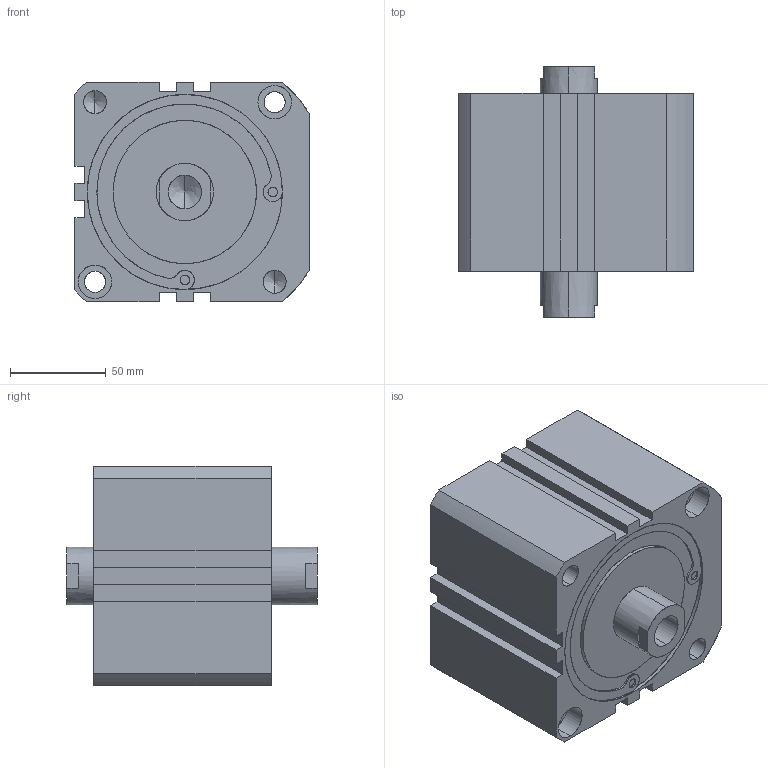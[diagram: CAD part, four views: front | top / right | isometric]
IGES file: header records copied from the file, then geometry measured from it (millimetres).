
Start section: SolidWorks IGES file using analytic representation for surfaces
Global section: file name: C:\Users\Toshiba\Desktop\XG#7-100D-10.IGS; native system: SolidWorks 2014; preprocessor: SolidWorks 2014; author: Toshiba; date: 160524.100137; units: millimetre
Bounding box: 122.5 x 131 x 115 mm (x, y, z)
Surface area: 97150 mm2 (no closed solid volume)
Topology: 0 solids, 0 shells, 142 faces, 2636 edges, 2620 vertices
Faces by surface type: revolution 86, bspline 56
